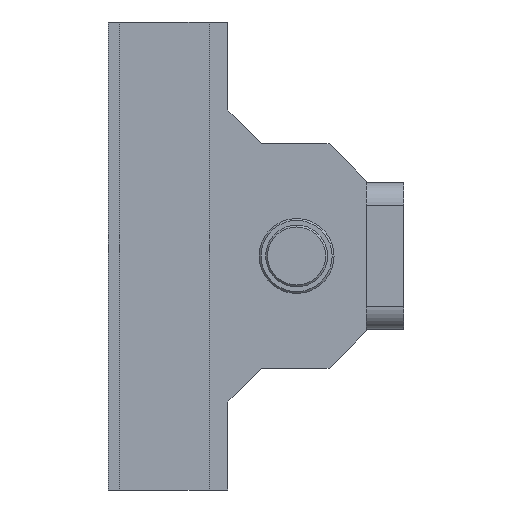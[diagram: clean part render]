
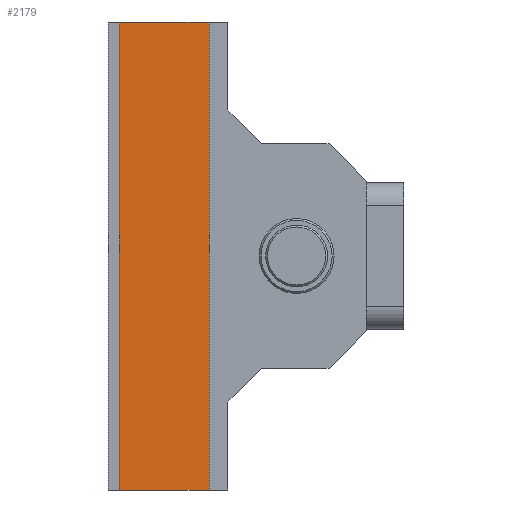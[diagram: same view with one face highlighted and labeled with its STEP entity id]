
A CAD part, left-side view. The second image highlights one B-rep face of the part: STEP entity #2179.
In plain terms, the highlighted planar face has unit normal (-1, 0, 0).
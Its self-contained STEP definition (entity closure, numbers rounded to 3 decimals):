
#66 = LINE ( 'NONE', #2537, #1166 ) ;
#103 = EDGE_CURVE ( 'NONE', #2562, #762, #66, .T. ) ;
#122 = ORIENTED_EDGE ( 'NONE', *, *, #103, .T. ) ;
#239 = CARTESIAN_POINT ( 'NONE',  ( -16.5, 62., -62.5 ) ) ;
#308 = VERTEX_POINT ( 'NONE', #2435 ) ;
#340 = CARTESIAN_POINT ( 'NONE',  ( -16.5, 86., 62.5 ) ) ;
#346 = LINE ( 'NONE', #938, #1263 ) ;
#351 = DIRECTION ( 'NONE',  ( 0., 1., 0. ) ) ;
#757 = AXIS2_PLACEMENT_3D ( 'NONE', #340, #1173, #351 ) ;
#762 = VERTEX_POINT ( 'NONE', #1750 ) ;
#825 = ORIENTED_EDGE ( 'NONE', *, *, #1674, .T. ) ;
#901 = FACE_OUTER_BOUND ( 'NONE', #1168, .T. ) ;
#938 = CARTESIAN_POINT ( 'NONE',  ( -16.5, 62., 62.5 ) ) ;
#1000 = ORIENTED_EDGE ( 'NONE', *, *, #1280, .F. ) ;
#1166 = VECTOR ( 'NONE', #1686, 1000. ) ;
#1168 = EDGE_LOOP ( 'NONE', ( #122, #825, #1000, #1723 ) ) ;
#1173 = DIRECTION ( 'NONE',  ( 1., 0., 0. ) ) ;
#1263 = VECTOR ( 'NONE', #1756, 1000. ) ;
#1280 = EDGE_CURVE ( 'NONE', #308, #1314, #346, .T. ) ;
#1314 = VERTEX_POINT ( 'NONE', #239 ) ;
#1552 = CARTESIAN_POINT ( 'NONE',  ( -16.5, 86., 62.5 ) ) ;
#1562 = LINE ( 'NONE', #1982, #1679 ) ;
#1674 = EDGE_CURVE ( 'NONE', #762, #1314, #1562, .T. ) ;
#1679 = VECTOR ( 'NONE', #1778, 1000. ) ;
#1686 = DIRECTION ( 'NONE',  ( 0., 0., -1. ) ) ;
#1723 = ORIENTED_EDGE ( 'NONE', *, *, #2062, .F. ) ;
#1750 = CARTESIAN_POINT ( 'NONE',  ( -16.5, 86., -62.5 ) ) ;
#1756 = DIRECTION ( 'NONE',  ( 0., 0., -1. ) ) ;
#1778 = DIRECTION ( 'NONE',  ( 0., -1., 0. ) ) ;
#1886 = PLANE ( 'NONE',  #757 ) ;
#1964 = LINE ( 'NONE', #1552, #2605 ) ;
#1982 = CARTESIAN_POINT ( 'NONE',  ( -16.5, 86., -62.5 ) ) ;
#2062 = EDGE_CURVE ( 'NONE', #2562, #308, #1964, .T. ) ;
#2179 = ADVANCED_FACE ( 'NONE', ( #901 ), #1886, .F. ) ;
#2435 = CARTESIAN_POINT ( 'NONE',  ( -16.5, 62., 62.5 ) ) ;
#2537 = CARTESIAN_POINT ( 'NONE',  ( -16.5, 86., 62.5 ) ) ;
#2538 = DIRECTION ( 'NONE',  ( 0., -1., 0. ) ) ;
#2562 = VERTEX_POINT ( 'NONE', #2626 ) ;
#2605 = VECTOR ( 'NONE', #2538, 1000. ) ;
#2626 = CARTESIAN_POINT ( 'NONE',  ( -16.5, 86., 62.5 ) ) ;
